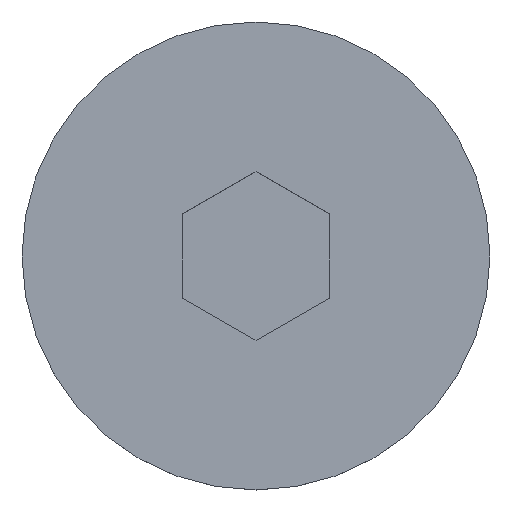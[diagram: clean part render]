
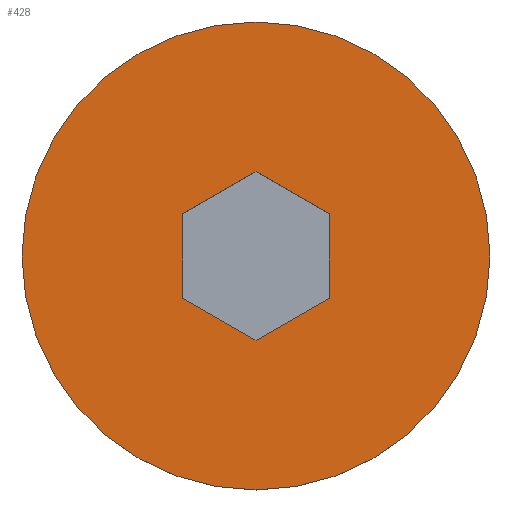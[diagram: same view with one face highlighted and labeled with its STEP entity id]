
A CAD part, top view. The second image highlights one B-rep face of the part: STEP entity #428.
In plain terms, the highlighted planar face has unit normal (0, 0, 1).
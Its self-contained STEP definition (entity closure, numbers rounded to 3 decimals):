
#18 = LINE ( 'NONE', #228, #209 ) ;
#40 = VECTOR ( 'NONE', #214, 1000. ) ;
#41 = VERTEX_POINT ( 'NONE', #400 ) ;
#42 = EDGE_CURVE ( 'NONE', #191, #179, #330, .T. ) ;
#45 = AXIS2_PLACEMENT_3D ( 'NONE', #97, #431, #263 ) ;
#51 = EDGE_CURVE ( 'NONE', #195, #304, #90, .T. ) ;
#63 = CARTESIAN_POINT ( 'NONE',  ( 0., 3.464, 5.22 ) ) ;
#65 = EDGE_CURVE ( 'NONE', #109, #445, #18, .T. ) ;
#69 = CIRCLE ( 'NONE', #229, 9.61 ) ;
#76 = CARTESIAN_POINT ( 'NONE',  ( -3., 1.732, 5.22 ) ) ;
#80 = EDGE_LOOP ( 'NONE', ( #290, #273 ) ) ;
#82 = CARTESIAN_POINT ( 'NONE',  ( 3., 1.732, 5.22 ) ) ;
#90 = LINE ( 'NONE', #124, #233 ) ;
#97 = CARTESIAN_POINT ( 'NONE',  ( 0., 0., 5.22 ) ) ;
#107 = CARTESIAN_POINT ( 'NONE',  ( 3., -1.732, 5.22 ) ) ;
#109 = VERTEX_POINT ( 'NONE', #63 ) ;
#115 = ORIENTED_EDGE ( 'NONE', *, *, #225, .F. ) ;
#124 = CARTESIAN_POINT ( 'NONE',  ( 0., -3.464, 5.22 ) ) ;
#128 = ORIENTED_EDGE ( 'NONE', *, *, #51, .F. ) ;
#130 = LINE ( 'NONE', #142, #325 ) ;
#131 = LINE ( 'NONE', #107, #40 ) ;
#142 = CARTESIAN_POINT ( 'NONE',  ( -3., -1.732, 5.22 ) ) ;
#145 = DIRECTION ( 'NONE',  ( 0., 0., -1. ) ) ;
#152 = DIRECTION ( 'NONE',  ( 0., 0., 1. ) ) ;
#157 = VERTEX_POINT ( 'NONE', #374 ) ;
#160 = FACE_BOUND ( 'NONE', #256, .T. ) ;
#161 = ORIENTED_EDGE ( 'NONE', *, *, #423, .F. ) ;
#176 = CARTESIAN_POINT ( 'NONE',  ( 3., -1.732, 5.22 ) ) ;
#179 = VERTEX_POINT ( 'NONE', #202 ) ;
#182 = DIRECTION ( 'NONE',  ( -1., 0., 0. ) ) ;
#186 = DIRECTION ( 'NONE',  ( 0., -1., 0. ) ) ;
#187 = CARTESIAN_POINT ( 'NONE',  ( -3., 1.732, 5.22 ) ) ;
#191 = VERTEX_POINT ( 'NONE', #271 ) ;
#192 = EDGE_CURVE ( 'NONE', #179, #191, #69, .T. ) ;
#195 = VERTEX_POINT ( 'NONE', #379 ) ;
#202 = CARTESIAN_POINT ( 'NONE',  ( 9.61, 0., 5.22 ) ) ;
#209 = VECTOR ( 'NONE', #265, 1000. ) ;
#214 = DIRECTION ( 'NONE',  ( 0., 1., 0. ) ) ;
#221 = DIRECTION ( 'NONE',  ( 1., 0., 0. ) ) ;
#225 = EDGE_CURVE ( 'NONE', #304, #41, #131, .T. ) ;
#228 = CARTESIAN_POINT ( 'NONE',  ( 0., 3.464, 5.22 ) ) ;
#229 = AXIS2_PLACEMENT_3D ( 'NONE', #409, #145, #182 ) ;
#232 = VECTOR ( 'NONE', #285, 1000. ) ;
#233 = VECTOR ( 'NONE', #338, 1000. ) ;
#238 = ORIENTED_EDGE ( 'NONE', *, *, #362, .F. ) ;
#256 = EDGE_LOOP ( 'NONE', ( #161, #115, #128, #389, #238, #361 ) ) ;
#263 = DIRECTION ( 'NONE',  ( -1., 0., 0. ) ) ;
#265 = DIRECTION ( 'NONE',  ( -0.866, -0.5, 0. ) ) ;
#271 = CARTESIAN_POINT ( 'NONE',  ( -9.61, 0., 5.22 ) ) ;
#273 = ORIENTED_EDGE ( 'NONE', *, *, #192, .F. ) ;
#285 = DIRECTION ( 'NONE',  ( -0.866, 0.5, 0. ) ) ;
#290 = ORIENTED_EDGE ( 'NONE', *, *, #42, .F. ) ;
#292 = PLANE ( 'NONE',  #306 ) ;
#304 = VERTEX_POINT ( 'NONE', #176 ) ;
#306 = AXIS2_PLACEMENT_3D ( 'NONE', #319, #152, #221 ) ;
#319 = CARTESIAN_POINT ( 'NONE',  ( -9.61, 0., 5.22 ) ) ;
#323 = DIRECTION ( 'NONE',  ( 0.866, -0.5, 0. ) ) ;
#325 = VECTOR ( 'NONE', #323, 1000. ) ;
#330 = CIRCLE ( 'NONE', #45, 9.61 ) ;
#338 = DIRECTION ( 'NONE',  ( 0.866, 0.5, 0. ) ) ;
#358 = EDGE_CURVE ( 'NONE', #157, #195, #130, .T. ) ;
#361 = ORIENTED_EDGE ( 'NONE', *, *, #65, .F. ) ;
#362 = EDGE_CURVE ( 'NONE', #445, #157, #426, .T. ) ;
#371 = LINE ( 'NONE', #82, #232 ) ;
#374 = CARTESIAN_POINT ( 'NONE',  ( -3., -1.732, 5.22 ) ) ;
#379 = CARTESIAN_POINT ( 'NONE',  ( 0., -3.464, 5.22 ) ) ;
#389 = ORIENTED_EDGE ( 'NONE', *, *, #358, .F. ) ;
#400 = CARTESIAN_POINT ( 'NONE',  ( 3., 1.732, 5.22 ) ) ;
#402 = FACE_OUTER_BOUND ( 'NONE', #80, .T. ) ;
#409 = CARTESIAN_POINT ( 'NONE',  ( 0., 0., 5.22 ) ) ;
#423 = EDGE_CURVE ( 'NONE', #41, #109, #371, .T. ) ;
#426 = LINE ( 'NONE', #76, #444 ) ;
#428 = ADVANCED_FACE ( 'NONE', ( #160, #402 ), #292, .T. ) ;
#431 = DIRECTION ( 'NONE',  ( 0., 0., -1. ) ) ;
#444 = VECTOR ( 'NONE', #186, 1000. ) ;
#445 = VERTEX_POINT ( 'NONE', #187 ) ;
